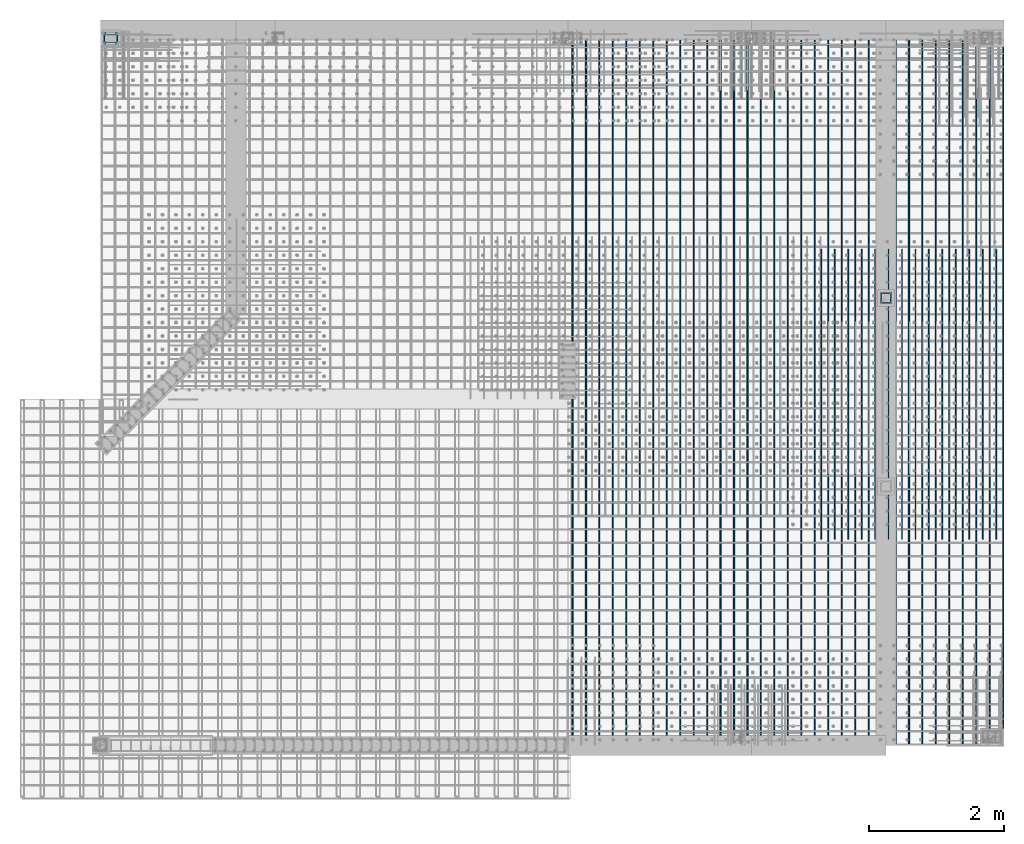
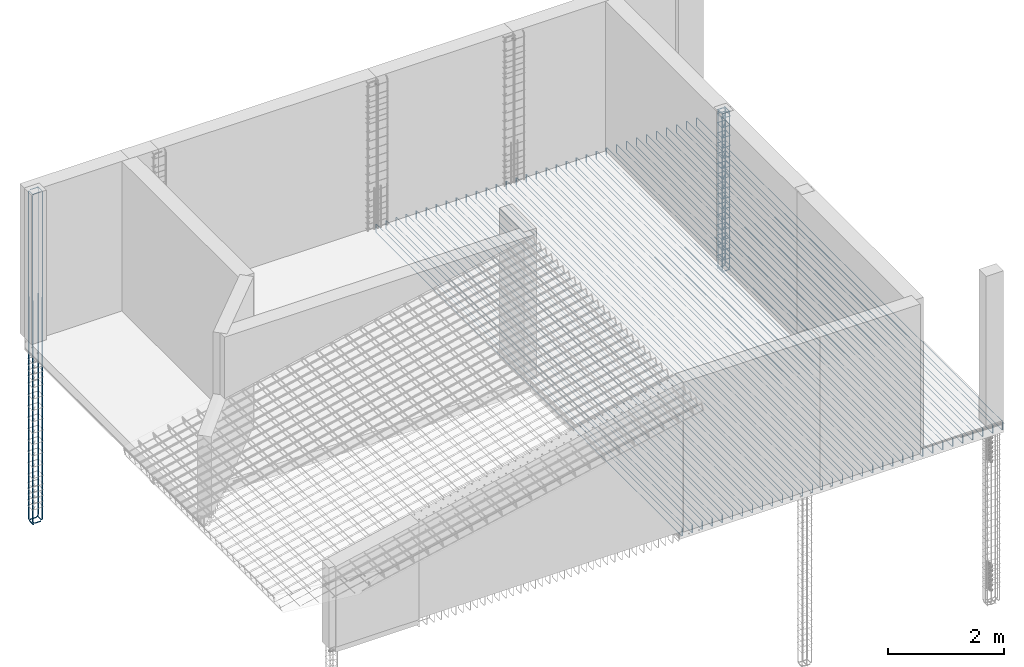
# One storey, part 11 of 17: 9 reinforcing bars.
"""IFC4 building model written with IfcOpenShell, lengths in metres."""

from ifc_helpers import new_model, entity, si_unit, frame, origin_with_axes, place, context, project, spatial, source, transform, mapped, element, save


model = new_model("IFC4")

# Units and contexts
model_context = context("Model", 3, precision=1e-05, world=origin_with_axes())
ifc_project = project(units=[si_unit("LENGTHUNIT", "METRE"), si_unit("AREAUNIT", "SQUARE_METRE"), si_unit("VOLUMEUNIT", "CUBIC_METRE"), si_unit("MASSUNIT", "GRAM", prefix="KILO"), si_unit("TIMEUNIT", "SECOND"), si_unit("PLANEANGLEUNIT", "RADIAN"), si_unit("SOLIDANGLEUNIT", "STERADIAN"), si_unit("THERMODYNAMICTEMPERATUREUNIT", "DEGREE_CELSIUS")], contexts=[model_context])

# Site, building, storey
placement_1 = place(None, origin_with_axes())
site = spatial("IfcSite", under=ifc_project, at=placement_1, Name="Italia", CompositionType="ELEMENT")
building = spatial("IfcBuilding", under=site, at=placement_1, Name="Abitazione", CompositionType="ELEMENT")
storey_placement = place(None, frame((0.0, 0.0, 3.569999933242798), z_axis=(0.0, 0.0, 1.0), x_axis=(1.0, 0.0, 0.0)))
storey = spatial("IfcBuildingStorey", under=building, at=storey_placement, Name="Storey 1", CompositionType="ELEMENT", Elevation=3.569999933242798)

# Reinforcing bars
shared_shape_1 = source(origin_with_axes(), model_context, "Body", "AdvancedSweptSolid", [
    entity("IfcSweptDiskSolid", entity("IfcIndexedPolyCurve", entity("IfcCartesianPointList3D", [[12.951, 7.369, 3.355], [12.839, 7.369, 3.355], [12.8199, 7.369, 3.35881], [12.8036, 7.369, 3.36964], [12.7928, 7.369, 3.38587], [12.789, 7.369, 3.405], [12.789, 7.369, 4.3875]]), [entity("IfcLineIndex", [1, 2]), entity("IfcLineIndex", [2, 3]), entity("IfcLineIndex", [3, 4]), entity("IfcLineIndex", [4, 5]), entity("IfcLineIndex", [5, 6]), entity("IfcLineIndex", [6, 7])], False), 0.01),
])
placement_2 = place(placement_1, origin_with_axes())
reinforcing_bar_1_placement = place(placement_2, origin_with_axes())
element("IfcReinforcingBar", 1, at=reinforcing_bar_1_placement, inside=storey, BarLength=1.17254, CrossSectionArea=0.00031416, NominalDiameter=0.02, context=model_context, shape_type="MappedRepresentation", body=[
    mapped(shared_shape_1, transform((5.42, 20.3, 0.0), x_axis=(0.0, -1.0, 0.0), y_axis=(1.0, 0.0, 0.0), z_axis=(0.0, 0.0, 1.0), scale=1.0)),
    mapped(shared_shape_1, transform((0.0, 0.0, 0.0), x_axis=(1.0, 0.0, 0.0), y_axis=(0.0, 1.0, 0.0), z_axis=(0.0, 0.0, 1.0), scale=1.0)),
    mapped(shared_shape_1, transform((20.3, -5.42, 0.0), x_axis=(0.0, 1.0, 0.0), y_axis=(-1.0, 0.0, 0.0), z_axis=(0.0, 0.0, 1.0), scale=1.0)),
    mapped(shared_shape_1, transform((25.72, 14.88, 0.0), x_axis=(-1.0, 0.0, 0.0), y_axis=(0.0, -1.0, 0.0), z_axis=(0.0, 0.0, 1.0), scale=1.0)),
])
shared_shape_2 = source(origin_with_axes(), model_context, "Body", "AdvancedSweptSolid", [
    entity("IfcSweptDiskSolid", entity("IfcIndexedPolyCurve", entity("IfcCartesianPointList3D", [[12.789, 7.369, 3.57], [12.789, 7.369, 6.645], [12.7928, 7.369, 6.66413], [12.8036, 7.369, 6.68036], [12.8199, 7.369, 6.69119], [12.839, 7.369, 6.695], [12.951, 7.369, 6.695]]), [entity("IfcLineIndex", [1, 2]), entity("IfcLineIndex", [2, 3]), entity("IfcLineIndex", [3, 4]), entity("IfcLineIndex", [4, 5]), entity("IfcLineIndex", [5, 6]), entity("IfcLineIndex", [6, 7])], False), 0.01),
])
reinforcing_bar_2_placement = place(placement_2, origin_with_axes())
element("IfcReinforcingBar", 2, at=reinforcing_bar_2_placement, inside=storey, BarLength=3.26504, CrossSectionArea=0.00031416, NominalDiameter=0.02, context=model_context, shape_type="MappedRepresentation", body=[
    mapped(shared_shape_2, transform((5.42, 20.3, 0.0), x_axis=(0.0, -1.0, 0.0), y_axis=(1.0, 0.0, 0.0), z_axis=(0.0, 0.0, 1.0), scale=1.0)),
    mapped(shared_shape_2, transform((0.0, 0.0, 0.0), x_axis=(1.0, 0.0, 0.0), y_axis=(0.0, 1.0, 0.0), z_axis=(0.0, 0.0, 1.0), scale=1.0)),
    mapped(shared_shape_2, transform((20.3, -5.42, 0.0), x_axis=(0.0, 1.0, 0.0), y_axis=(-1.0, 0.0, 0.0), z_axis=(0.0, 0.0, 1.0), scale=1.0)),
    mapped(shared_shape_2, transform((25.72, 14.88, 0.0), x_axis=(-1.0, 0.0, 0.0), y_axis=(0.0, -1.0, 0.0), z_axis=(0.0, 0.0, 1.0), scale=1.0)),
])
shared_shape_3 = source(origin_with_axes(), model_context, "Body", "AdvancedSweptSolid", [
    entity("IfcSweptDiskSolid", entity("IfcIndexedPolyCurve", entity("IfcCartesianPointList3D", [[12.8667, 7.42571, 3.613], [12.7989, 7.35793, 3.61189], [12.7919, 7.355, 3.6118], [12.785, 7.355, 3.61172], [12.7812, 7.35576, 3.61168], [12.7779, 7.35793, 3.61163], [12.7758, 7.36117, 3.61159], [12.775, 7.365, 3.61154], [12.775, 7.515, 3.60981], [12.7758, 7.51883, 3.60976], [12.7779, 7.52207, 3.60972], [12.7812, 7.52424, 3.60967], [12.785, 7.525, 3.60963], [12.935, 7.525, 3.60789], [12.9388, 7.52424, 3.60785], [12.9421, 7.52207, 3.6078], [12.9442, 7.51883, 3.60776], [12.945, 7.515, 3.60771], [12.945, 7.365, 3.60598], [12.9442, 7.36117, 3.60593], [12.9421, 7.35793, 3.60589], [12.9388, 7.35576, 3.60584], [12.935, 7.355, 3.6058], [12.785, 7.355, 3.60406], [12.7812, 7.35576, 3.60402], [12.7779, 7.35793, 3.60397], [12.7758, 7.36117, 3.60393], [12.775, 7.365, 3.60388], [12.775, 7.37186, 3.6038], [12.7779, 7.37893, 3.60371], [12.8457, 7.44671, 3.60261]]), [entity("IfcLineIndex", [1, 2]), entity("IfcLineIndex", [2, 3]), entity("IfcLineIndex", [3, 4]), entity("IfcLineIndex", [4, 5]), entity("IfcLineIndex", [5, 6]), entity("IfcLineIndex", [6, 7]), entity("IfcLineIndex", [7, 8]), entity("IfcLineIndex", [8, 9]), entity("IfcLineIndex", [9, 10]), entity("IfcLineIndex", [10, 11]), entity("IfcLineIndex", [11, 12]), entity("IfcLineIndex", [12, 13]), entity("IfcLineIndex", [13, 14]), entity("IfcLineIndex", [14, 15]), entity("IfcLineIndex", [15, 16]), entity("IfcLineIndex", [16, 17]), entity("IfcLineIndex", [17, 18]), entity("IfcLineIndex", [18, 19]), entity("IfcLineIndex", [19, 20]), entity("IfcLineIndex", [20, 21]), entity("IfcLineIndex", [21, 22]), entity("IfcLineIndex", [22, 23]), entity("IfcLineIndex", [23, 24]), entity("IfcLineIndex", [24, 25]), entity("IfcLineIndex", [25, 26]), entity("IfcLineIndex", [26, 27]), entity("IfcLineIndex", [27, 28]), entity("IfcLineIndex", [28, 29]), entity("IfcLineIndex", [29, 30]), entity("IfcLineIndex", [30, 31])], False), 0.004),
])
reinforcing_bar_3_placement = place(placement_2, origin_with_axes())
element("IfcReinforcingBar", 3, at=reinforcing_bar_3_placement, inside=storey, BarLength=0.898838, CrossSectionArea=5.0265e-05, NominalDiameter=0.008, context=model_context, shape_type="MappedRepresentation", body=[
    mapped(shared_shape_3, transform((7.62939e-05, -7.29561e-05, 1.93834), x_axis=(1.0, 0.0, 2.16572e-05), y_axis=(0.0, 1.0, -2.16947e-05), z_axis=(-2.16572e-05, 2.16947e-05, 1.0), scale=1.0)),
    mapped(shared_shape_3, transform((7.62939e-05, -7.29561e-05, 1.72296), x_axis=(1.0, 0.0, 2.16572e-05), y_axis=(0.0, 1.0, -2.16947e-05), z_axis=(-2.16572e-05, 2.16947e-05, 1.0), scale=1.0)),
    mapped(shared_shape_3, transform((7.62939e-05, -7.29561e-05, 2.99588), x_axis=(1.0, 0.0, 2.16572e-05), y_axis=(0.0, 1.0, -2.16947e-05), z_axis=(-2.16572e-05, 2.16947e-05, 1.0), scale=1.0)),
    mapped(shared_shape_3, transform((7.62939e-05, -7.29561e-05, 2.5845), x_axis=(1.0, 0.0, 2.16572e-05), y_axis=(0.0, 1.0, -2.16947e-05), z_axis=(-2.16572e-05, 2.16947e-05, 1.0), scale=1.0)),
    mapped(shared_shape_3, transform((7.62939e-05, -7.29561e-05, 2.36911), x_axis=(1.0, 0.0, 2.16572e-05), y_axis=(0.0, 1.0, -2.16947e-05), z_axis=(-2.16572e-05, 2.16947e-05, 1.0), scale=1.0)),
    mapped(shared_shape_3, transform((7.62939e-05, -7.29561e-05, 2.15373), x_axis=(1.0, 0.0, 2.16572e-05), y_axis=(0.0, 1.0, -2.16947e-05), z_axis=(-2.16572e-05, 2.16947e-05, 1.0), scale=1.0)),
    mapped(shared_shape_3, transform((0.0, 0.0, 0.215384), x_axis=(1.0, 0.0, 0.0), y_axis=(0.0, 1.0, 0.0), z_axis=(0.0, 0.0, 1.0), scale=1.0)),
    mapped(shared_shape_3, transform((7.62939e-05, -7.29561e-05, 1.50757), x_axis=(1.0, 0.0, 2.16572e-05), y_axis=(0.0, 1.0, -2.16947e-05), z_axis=(-2.16572e-05, 2.16947e-05, 1.0), scale=1.0)),
    mapped(shared_shape_3, transform((7.62939e-05, -7.29561e-05, 2.79988), x_axis=(1.0, 0.0, 2.16572e-05), y_axis=(0.0, 1.0, -2.16947e-05), z_axis=(-2.16572e-05, 2.16947e-05, 1.0), scale=1.0)),
    mapped(shared_shape_3, transform((7.62939e-05, -7.29561e-05, 0.86142), x_axis=(1.0, 0.0, 2.16572e-05), y_axis=(0.0, 1.0, -2.16947e-05), z_axis=(-2.16572e-05, 2.16947e-05, 1.0), scale=1.0)),
    mapped(shared_shape_3, transform((7.62939e-05, -7.29561e-05, 0.646036), x_axis=(1.0, 0.0, 2.16572e-05), y_axis=(0.0, 1.0, -2.16947e-05), z_axis=(-2.16572e-05, 2.16947e-05, 1.0), scale=1.0)),
    mapped(shared_shape_3, transform((7.62939e-05, -7.29561e-05, 0.430651), x_axis=(1.0, 0.0, 2.16572e-05), y_axis=(0.0, 1.0, -2.16947e-05), z_axis=(-2.16572e-05, 2.16947e-05, 1.0), scale=1.0)),
    mapped(shared_shape_3, transform((0.0, 0.0, 0.0), x_axis=(1.0, 0.0, 0.0), y_axis=(0.0, 1.0, 0.0), z_axis=(0.0, 0.0, 1.0), scale=1.0)),
    mapped(shared_shape_3, transform((7.62939e-05, -7.29561e-05, 1.29219), x_axis=(1.0, 0.0, 2.16572e-05), y_axis=(0.0, 1.0, -2.16947e-05), z_axis=(-2.16572e-05, 2.16947e-05, 1.0), scale=1.0)),
    mapped(shared_shape_3, transform((7.62939e-05, -7.29561e-05, 1.07681), x_axis=(1.0, 0.0, 2.16572e-05), y_axis=(0.0, 1.0, -2.16947e-05), z_axis=(-2.16572e-05, 2.16947e-05, 1.0), scale=1.0)),
])
shared_shape_4 = source(origin_with_axes(), model_context, "Body", "AdvancedSweptSolid", [
    entity("IfcSweptDiskSolid", entity("IfcIndexedPolyCurve", entity("IfcCartesianPointList3D", [[1.407, 11.225, -0.265], [1.3, 11.225, -0.265], [1.27895, 11.225, -0.260813], [1.26111, 11.225, -0.248891], [1.24919, 11.225, -0.231048], [1.245, 11.225, -0.21], [1.245, 11.225, 0.8975]]), [entity("IfcLineIndex", [1, 2]), entity("IfcLineIndex", [2, 3]), entity("IfcLineIndex", [3, 4]), entity("IfcLineIndex", [4, 5]), entity("IfcLineIndex", [5, 6]), entity("IfcLineIndex", [6, 7])], False), 0.011),
])
reinforcing_bar_4_placement = place(placement_2, origin_with_axes())
element("IfcReinforcingBar", 4, at=reinforcing_bar_4_placement, inside=storey, BarLength=1.30034, CrossSectionArea=0.00038013, NominalDiameter=0.022, context=model_context, shape_type="MappedRepresentation", body=[
    mapped(shared_shape_4, transform((-9.98, 12.61, 0.0), x_axis=(0.0, -1.0, 0.0), y_axis=(1.0, 0.0, 0.0), z_axis=(0.0, 0.0, 1.0), scale=1.0)),
    mapped(shared_shape_4, transform((0.0, 0.0, 0.0), x_axis=(1.0, 0.0, 0.0), y_axis=(0.0, 1.0, 0.0), z_axis=(0.0, 0.0, 1.0), scale=1.0)),
    mapped(shared_shape_4, transform((12.66, 9.98, 0.0), x_axis=(0.0, 1.0, 0.0), y_axis=(-1.0, 0.0, 0.0), z_axis=(0.0, 0.0, 1.0), scale=1.0)),
    mapped(shared_shape_4, transform((2.68, 22.59, 0.0), x_axis=(-1.0, 0.0, 0.0), y_axis=(0.0, -1.0, 0.0), z_axis=(0.0, 0.0, 1.0), scale=1.0)),
])
shared_shape_5 = source(origin_with_axes(), model_context, "Body", "AdvancedSweptSolid", [
    entity("IfcSweptDiskSolid", entity("IfcIndexedPolyCurve", entity("IfcCartesianPointList3D", [[1.245, 11.225, 0.0], [1.245, 11.225, 4.45]]), [entity("IfcLineIndex", [1, 2])], False), 0.011),
])
reinforcing_bar_5_placement = place(placement_2, origin_with_axes())
element("IfcReinforcingBar", 5, at=reinforcing_bar_5_placement, inside=storey, BarLength=4.45, CrossSectionArea=0.00038013, NominalDiameter=0.022, context=model_context, shape_type="MappedRepresentation", body=[
    mapped(shared_shape_5, transform((0.0, 0.139999, 0.0), x_axis=(1.0, 0.0, 0.0), y_axis=(0.0, 1.0, 0.0), z_axis=(0.0, 0.0, 1.0), scale=1.0)),
    mapped(shared_shape_5, transform((0.0, 0.0, 0.0), x_axis=(1.0, 0.0, 0.0), y_axis=(0.0, 1.0, 0.0), z_axis=(0.0, 0.0, 1.0), scale=1.0)),
    mapped(shared_shape_5, transform((0.19, 0.0, 0.0), x_axis=(1.0, 0.0, 0.0), y_axis=(0.0, 1.0, 0.0), z_axis=(0.0, 0.0, 1.0), scale=1.0)),
    mapped(shared_shape_5, transform((0.19, 0.139999, 0.0), x_axis=(1.0, 0.0, 0.0), y_axis=(0.0, 1.0, 0.0), z_axis=(0.0, 0.0, 1.0), scale=1.0)),
])
shared_shape_6 = source(origin_with_axes(), model_context, "Body", "AdvancedSweptSolid", [
    entity("IfcSweptDiskSolid", entity("IfcIndexedPolyCurve", entity("IfcCartesianPointList3D", [[1.242, 11.222, 3.57], [1.242, 11.222, 6.655], [1.24504, 11.222, 6.67031], [1.25372, 11.222, 6.68328], [1.26669, 11.222, 6.69196], [1.282, 11.222, 6.695], [1.404, 11.222, 6.695]]), [entity("IfcLineIndex", [1, 2]), entity("IfcLineIndex", [2, 3]), entity("IfcLineIndex", [3, 4]), entity("IfcLineIndex", [4, 5]), entity("IfcLineIndex", [5, 6]), entity("IfcLineIndex", [6, 7])], False), 0.008),
])
reinforcing_bar_6_placement = place(placement_2, origin_with_axes())
element("IfcReinforcingBar", 6, at=reinforcing_bar_6_placement, inside=storey, BarLength=3.26943, CrossSectionArea=0.00020106, NominalDiameter=0.016, context=model_context, shape_type="MappedRepresentation", body=[
    mapped(shared_shape_6, transform((-9.98, 12.61, 0.0), x_axis=(0.0, -1.0, 0.0), y_axis=(1.0, 0.0, 0.0), z_axis=(0.0, 0.0, 1.0), scale=1.0)),
    mapped(shared_shape_6, transform((0.0, 0.0, 0.0), x_axis=(1.0, 0.0, 0.0), y_axis=(0.0, 1.0, 0.0), z_axis=(0.0, 0.0, 1.0), scale=1.0)),
    mapped(shared_shape_6, transform((12.66, 9.98, 0.0), x_axis=(0.0, 1.0, 0.0), y_axis=(-1.0, 0.0, 0.0), z_axis=(0.0, 0.0, 1.0), scale=1.0)),
    mapped(shared_shape_6, transform((2.68, 22.59, 0.0), x_axis=(-1.0, 0.0, 0.0), y_axis=(0.0, -1.0, 0.0), z_axis=(0.0, 0.0, 1.0), scale=1.0)),
])
shared_shape_7 = source(origin_with_axes(), model_context, "Body", "AdvancedSweptSolid", [
    entity("IfcSweptDiskSolid", entity("IfcIndexedPolyCurve", entity("IfcCartesianPointList3D", [[8.206, 0.802, 3.362], [8.206, 0.802, 3.518], [8.206, 0.802761, 3.52183], [8.206, 0.804929, 3.52507], [8.206, 0.808173, 3.52724], [8.206, 0.812, 3.528], [8.206, 11.386, 3.528], [8.206, 11.3898, 3.52724], [8.206, 11.3931, 3.52507], [8.206, 11.3952, 3.52183], [8.206, 11.396, 3.518], [8.206, 11.396, 3.362]]), [entity("IfcLineIndex", [1, 2]), entity("IfcLineIndex", [2, 3]), entity("IfcLineIndex", [3, 4]), entity("IfcLineIndex", [4, 5]), entity("IfcLineIndex", [5, 6]), entity("IfcLineIndex", [6, 7]), entity("IfcLineIndex", [7, 8]), entity("IfcLineIndex", [8, 9]), entity("IfcLineIndex", [9, 10]), entity("IfcLineIndex", [10, 11]), entity("IfcLineIndex", [11, 12])], False), 0.006),
])
reinforcing_bar_7_placement = place(placement_2, origin_with_axes())
element("IfcReinforcingBar", 7, at=reinforcing_bar_7_placement, inside=storey, BarLength=10.9172, CrossSectionArea=0.0001131, NominalDiameter=0.012, context=model_context, shape_type="MappedRepresentation", body=[
    mapped(shared_shape_7, transform((6.39999, 0.0, 0.0), x_axis=(1.0, 0.0, 0.0), y_axis=(0.0, 1.0, 0.0), z_axis=(0.0, 0.0, 1.0), scale=1.0)),
    mapped(shared_shape_7, transform((6.19999, 0.0, 0.0), x_axis=(1.0, 0.0, 0.0), y_axis=(0.0, 1.0, 0.0), z_axis=(0.0, 0.0, 1.0), scale=1.0)),
    mapped(shared_shape_7, transform((4.4, 0.0, 0.0), x_axis=(1.0, 0.0, 0.0), y_axis=(0.0, 1.0, 0.0), z_axis=(0.0, 0.0, 1.0), scale=1.0)),
    mapped(shared_shape_7, transform((4.2, 0.0, 0.0), x_axis=(1.0, 0.0, 0.0), y_axis=(0.0, 1.0, 0.0), z_axis=(0.0, 0.0, 1.0), scale=1.0)),
    mapped(shared_shape_7, transform((4.0, 0.0, 0.0), x_axis=(1.0, 0.0, 0.0), y_axis=(0.0, 1.0, 0.0), z_axis=(0.0, 0.0, 1.0), scale=1.0)),
    mapped(shared_shape_7, transform((3.8, 0.0, 0.0), x_axis=(1.0, 0.0, 0.0), y_axis=(0.0, 1.0, 0.0), z_axis=(0.0, 0.0, 1.0), scale=1.0)),
    mapped(shared_shape_7, transform((3.6, 0.0, 0.0), x_axis=(1.0, 0.0, 0.0), y_axis=(0.0, 1.0, 0.0), z_axis=(0.0, 0.0, 1.0), scale=1.0)),
    mapped(shared_shape_7, transform((3.4, 0.0, 0.0), x_axis=(1.0, 0.0, 0.0), y_axis=(0.0, 1.0, 0.0), z_axis=(0.0, 0.0, 1.0), scale=1.0)),
    mapped(shared_shape_7, transform((4.8, 0.0, 0.0), x_axis=(1.0, 0.0, 0.0), y_axis=(0.0, 1.0, 0.0), z_axis=(0.0, 0.0, 1.0), scale=1.0)),
    mapped(shared_shape_7, transform((4.6, 0.0, 0.0), x_axis=(1.0, 0.0, 0.0), y_axis=(0.0, 1.0, 0.0), z_axis=(0.0, 0.0, 1.0), scale=1.0)),
    mapped(shared_shape_7, transform((5.99999, 0.0, 0.0), x_axis=(1.0, 0.0, 0.0), y_axis=(0.0, 1.0, 0.0), z_axis=(0.0, 0.0, 1.0), scale=1.0)),
    mapped(shared_shape_7, transform((5.79999, 0.0, 0.0), x_axis=(1.0, 0.0, 0.0), y_axis=(0.0, 1.0, 0.0), z_axis=(0.0, 0.0, 1.0), scale=1.0)),
    mapped(shared_shape_7, transform((5.59999, 0.0, 0.0), x_axis=(1.0, 0.0, 0.0), y_axis=(0.0, 1.0, 0.0), z_axis=(0.0, 0.0, 1.0), scale=1.0)),
    mapped(shared_shape_7, transform((5.39999, 0.0, 0.0), x_axis=(1.0, 0.0, 0.0), y_axis=(0.0, 1.0, 0.0), z_axis=(0.0, 0.0, 1.0), scale=1.0)),
    mapped(shared_shape_7, transform((5.2, 0.0, 0.0), x_axis=(1.0, 0.0, 0.0), y_axis=(0.0, 1.0, 0.0), z_axis=(0.0, 0.0, 1.0), scale=1.0)),
    mapped(shared_shape_7, transform((5.0, 0.0, 0.0), x_axis=(1.0, 0.0, 0.0), y_axis=(0.0, 1.0, 0.0), z_axis=(0.0, 0.0, 1.0), scale=1.0)),
    mapped(shared_shape_7, transform((3.2, 0.0, 0.0), x_axis=(1.0, 0.0, 0.0), y_axis=(0.0, 1.0, 0.0), z_axis=(0.0, 0.0, 1.0), scale=1.0)),
    mapped(shared_shape_7, transform((3.0, 0.0, 0.0), x_axis=(1.0, 0.0, 0.0), y_axis=(0.0, 1.0, 0.0), z_axis=(0.0, 0.0, 1.0), scale=1.0)),
    mapped(shared_shape_7, transform((1.2, 0.0, 0.0), x_axis=(1.0, 0.0, 0.0), y_axis=(0.0, 1.0, 0.0), z_axis=(0.0, 0.0, 1.0), scale=1.0)),
    mapped(shared_shape_7, transform((0.999999, 0.0, 0.0), x_axis=(1.0, 0.0, 0.0), y_axis=(0.0, 1.0, 0.0), z_axis=(0.0, 0.0, 1.0), scale=1.0)),
    mapped(shared_shape_7, transform((0.799999, 0.0, 0.0), x_axis=(1.0, 0.0, 0.0), y_axis=(0.0, 1.0, 0.0), z_axis=(0.0, 0.0, 1.0), scale=1.0)),
    mapped(shared_shape_7, transform((0.599999, 0.0, 0.0), x_axis=(1.0, 0.0, 0.0), y_axis=(0.0, 1.0, 0.0), z_axis=(0.0, 0.0, 1.0), scale=1.0)),
    mapped(shared_shape_7, transform((0.4, 0.0, 0.0), x_axis=(1.0, 0.0, 0.0), y_axis=(0.0, 1.0, 0.0), z_axis=(0.0, 0.0, 1.0), scale=1.0)),
    mapped(shared_shape_7, transform((0.2, 0.0, 0.0), x_axis=(1.0, 0.0, 0.0), y_axis=(0.0, 1.0, 0.0), z_axis=(0.0, 0.0, 1.0), scale=1.0)),
    mapped(shared_shape_7, transform((1.6, 0.0, 0.0), x_axis=(1.0, 0.0, 0.0), y_axis=(0.0, 1.0, 0.0), z_axis=(0.0, 0.0, 1.0), scale=1.0)),
    mapped(shared_shape_7, transform((1.4, 0.0, 0.0), x_axis=(1.0, 0.0, 0.0), y_axis=(0.0, 1.0, 0.0), z_axis=(0.0, 0.0, 1.0), scale=1.0)),
    mapped(shared_shape_7, transform((2.8, 0.0, 0.0), x_axis=(1.0, 0.0, 0.0), y_axis=(0.0, 1.0, 0.0), z_axis=(0.0, 0.0, 1.0), scale=1.0)),
    mapped(shared_shape_7, transform((2.6, 0.0, 0.0), x_axis=(1.0, 0.0, 0.0), y_axis=(0.0, 1.0, 0.0), z_axis=(0.0, 0.0, 1.0), scale=1.0)),
    mapped(shared_shape_7, transform((2.4, 0.0, 0.0), x_axis=(1.0, 0.0, 0.0), y_axis=(0.0, 1.0, 0.0), z_axis=(0.0, 0.0, 1.0), scale=1.0)),
    mapped(shared_shape_7, transform((2.2, 0.0, 0.0), x_axis=(1.0, 0.0, 0.0), y_axis=(0.0, 1.0, 0.0), z_axis=(0.0, 0.0, 1.0), scale=1.0)),
    mapped(shared_shape_7, transform((2.0, 0.0, 0.0), x_axis=(1.0, 0.0, 0.0), y_axis=(0.0, 1.0, 0.0), z_axis=(0.0, 0.0, 1.0), scale=1.0)),
    mapped(shared_shape_7, transform((1.8, 0.0, 0.0), x_axis=(1.0, 0.0, 0.0), y_axis=(0.0, 1.0, 0.0), z_axis=(0.0, 0.0, 1.0), scale=1.0)),
    mapped(shared_shape_7, transform((0.0, 0.0, 0.0), x_axis=(1.0, 0.0, 0.0), y_axis=(0.0, 1.0, 0.0), z_axis=(0.0, 0.0, 1.0), scale=1.0)),
    mapped(shared_shape_7, transform((22.8, 0.0, 6.89), x_axis=(-1.0, 0.0, 0.0), y_axis=(0.0, 1.0, 0.0), z_axis=(0.0, 0.0, -1.0), scale=1.0)),
    mapped(shared_shape_7, transform((21.0, 0.0, 6.89), x_axis=(-1.0, 0.0, 0.0), y_axis=(0.0, 1.0, 0.0), z_axis=(0.0, 0.0, -1.0), scale=1.0)),
    mapped(shared_shape_7, transform((20.8, 0.0, 6.89), x_axis=(-1.0, 0.0, 0.0), y_axis=(0.0, 1.0, 0.0), z_axis=(0.0, 0.0, -1.0), scale=1.0)),
    mapped(shared_shape_7, transform((20.6, 0.0, 6.89), x_axis=(-1.0, 0.0, 0.0), y_axis=(0.0, 1.0, 0.0), z_axis=(0.0, 0.0, -1.0), scale=1.0)),
    mapped(shared_shape_7, transform((20.4, 0.0, 6.89), x_axis=(-1.0, 0.0, 0.0), y_axis=(0.0, 1.0, 0.0), z_axis=(0.0, 0.0, -1.0), scale=1.0)),
    mapped(shared_shape_7, transform((20.2, 0.0, 6.89), x_axis=(-1.0, 0.0, 0.0), y_axis=(0.0, 1.0, 0.0), z_axis=(0.0, 0.0, -1.0), scale=1.0)),
    mapped(shared_shape_7, transform((20.0, 0.0, 6.89), x_axis=(-1.0, 0.0, 0.0), y_axis=(0.0, 1.0, 0.0), z_axis=(0.0, 0.0, -1.0), scale=1.0)),
    mapped(shared_shape_7, transform((21.4, 0.0, 6.89), x_axis=(-1.0, 0.0, 0.0), y_axis=(0.0, 1.0, 0.0), z_axis=(0.0, 0.0, -1.0), scale=1.0)),
    mapped(shared_shape_7, transform((21.2, 0.0, 6.89), x_axis=(-1.0, 0.0, 0.0), y_axis=(0.0, 1.0, 0.0), z_axis=(0.0, 0.0, -1.0), scale=1.0)),
    mapped(shared_shape_7, transform((22.6, 0.0, 6.89), x_axis=(-1.0, 0.0, 0.0), y_axis=(0.0, 1.0, 0.0), z_axis=(0.0, 0.0, -1.0), scale=1.0)),
    mapped(shared_shape_7, transform((22.4, 0.0, 6.89), x_axis=(-1.0, 0.0, 0.0), y_axis=(0.0, 1.0, 0.0), z_axis=(0.0, 0.0, -1.0), scale=1.0)),
    mapped(shared_shape_7, transform((22.2, 0.0, 6.89), x_axis=(-1.0, 0.0, 0.0), y_axis=(0.0, 1.0, 0.0), z_axis=(0.0, 0.0, -1.0), scale=1.0)),
    mapped(shared_shape_7, transform((22.0, 0.0, 6.89), x_axis=(-1.0, 0.0, 0.0), y_axis=(0.0, 1.0, 0.0), z_axis=(0.0, 0.0, -1.0), scale=1.0)),
    mapped(shared_shape_7, transform((21.8, 0.0, 6.89), x_axis=(-1.0, 0.0, 0.0), y_axis=(0.0, 1.0, 0.0), z_axis=(0.0, 0.0, -1.0), scale=1.0)),
    mapped(shared_shape_7, transform((21.6, 0.0, 6.89), x_axis=(-1.0, 0.0, 0.0), y_axis=(0.0, 1.0, 0.0), z_axis=(0.0, 0.0, -1.0), scale=1.0)),
    mapped(shared_shape_7, transform((19.8, 0.0, 6.89), x_axis=(-1.0, 0.0, 0.0), y_axis=(0.0, 1.0, 0.0), z_axis=(0.0, 0.0, -1.0), scale=1.0)),
    mapped(shared_shape_7, transform((19.6, 0.0, 6.89), x_axis=(-1.0, 0.0, 0.0), y_axis=(0.0, 1.0, 0.0), z_axis=(0.0, 0.0, -1.0), scale=1.0)),
    mapped(shared_shape_7, transform((17.8, 0.0, 6.89), x_axis=(-1.0, 0.0, 0.0), y_axis=(0.0, 1.0, 0.0), z_axis=(0.0, 0.0, -1.0), scale=1.0)),
    mapped(shared_shape_7, transform((17.6, 0.0, 6.89), x_axis=(-1.0, 0.0, 0.0), y_axis=(0.0, 1.0, 0.0), z_axis=(0.0, 0.0, -1.0), scale=1.0)),
    mapped(shared_shape_7, transform((17.4, 0.0, 6.89), x_axis=(-1.0, 0.0, 0.0), y_axis=(0.0, 1.0, 0.0), z_axis=(0.0, 0.0, -1.0), scale=1.0)),
    mapped(shared_shape_7, transform((17.2, 0.0, 6.89), x_axis=(-1.0, 0.0, 0.0), y_axis=(0.0, 1.0, 0.0), z_axis=(0.0, 0.0, -1.0), scale=1.0)),
    mapped(shared_shape_7, transform((17.0, 0.0, 6.89), x_axis=(-1.0, 0.0, 0.0), y_axis=(0.0, 1.0, 0.0), z_axis=(0.0, 0.0, -1.0), scale=1.0)),
    mapped(shared_shape_7, transform((16.8, 0.0, 6.89), x_axis=(-1.0, 0.0, 0.0), y_axis=(0.0, 1.0, 0.0), z_axis=(0.0, 0.0, -1.0), scale=1.0)),
    mapped(shared_shape_7, transform((18.2, 0.0, 6.89), x_axis=(-1.0, 0.0, 0.0), y_axis=(0.0, 1.0, 0.0), z_axis=(0.0, 0.0, -1.0), scale=1.0)),
    mapped(shared_shape_7, transform((18.0, 0.0, 6.89), x_axis=(-1.0, 0.0, 0.0), y_axis=(0.0, 1.0, 0.0), z_axis=(0.0, 0.0, -1.0), scale=1.0)),
    mapped(shared_shape_7, transform((19.4, 0.0, 6.89), x_axis=(-1.0, 0.0, 0.0), y_axis=(0.0, 1.0, 0.0), z_axis=(0.0, 0.0, -1.0), scale=1.0)),
    mapped(shared_shape_7, transform((19.2, 0.0, 6.89), x_axis=(-1.0, 0.0, 0.0), y_axis=(0.0, 1.0, 0.0), z_axis=(0.0, 0.0, -1.0), scale=1.0)),
    mapped(shared_shape_7, transform((19.0, 0.0, 6.89), x_axis=(-1.0, 0.0, 0.0), y_axis=(0.0, 1.0, 0.0), z_axis=(0.0, 0.0, -1.0), scale=1.0)),
    mapped(shared_shape_7, transform((18.8, 0.0, 6.89), x_axis=(-1.0, 0.0, 0.0), y_axis=(0.0, 1.0, 0.0), z_axis=(0.0, 0.0, -1.0), scale=1.0)),
    mapped(shared_shape_7, transform((18.6, 0.0, 6.89), x_axis=(-1.0, 0.0, 0.0), y_axis=(0.0, 1.0, 0.0), z_axis=(0.0, 0.0, -1.0), scale=1.0)),
    mapped(shared_shape_7, transform((18.4, 0.0, 6.89), x_axis=(-1.0, 0.0, 0.0), y_axis=(0.0, 1.0, 0.0), z_axis=(0.0, 0.0, -1.0), scale=1.0)),
    mapped(shared_shape_7, transform((16.6, 0.0, 6.89), x_axis=(-1.0, 0.0, 0.0), y_axis=(0.0, 1.0, 0.0), z_axis=(0.0, 0.0, -1.0), scale=1.0)),
    mapped(shared_shape_7, transform((16.4, 0.0, 6.89), x_axis=(-1.0, 0.0, 0.0), y_axis=(0.0, 1.0, 0.0), z_axis=(0.0, 0.0, -1.0), scale=1.0)),
])
shared_shape_8 = source(origin_with_axes(), model_context, "Body", "AdvancedSweptSolid", [
    entity("IfcSweptDiskSolid", entity("IfcIndexedPolyCurve", entity("IfcCartesianPointList3D", [[11.8963, 4.5774, 3.5], [11.8963, 7.44058, 3.5]]), [entity("IfcLineIndex", [1, 2])], False), 0.01),
])
reinforcing_bar_8_placement = place(placement_2, origin_with_axes())
element("IfcReinforcingBar", 8, at=reinforcing_bar_8_placement, inside=storey, BarLength=2.86318, CrossSectionArea=0.00031416, NominalDiameter=0.02, context=model_context, shape_type="MappedRepresentation", body=[
    mapped(shared_shape_8, transform((1.6, 0.0, 0.0), x_axis=(1.0, 0.0, 0.0), y_axis=(0.0, 1.0, 0.0), z_axis=(0.0, 0.0, 1.0), scale=1.0)),
    mapped(shared_shape_8, transform((1.4, 0.0, 0.0), x_axis=(1.0, 0.0, 0.0), y_axis=(0.0, 1.0, 0.0), z_axis=(0.0, 0.0, 1.0), scale=1.0)),
    mapped(shared_shape_8, transform((1.8, 0.0, 0.0), x_axis=(1.0, 0.0, 0.0), y_axis=(0.0, 1.0, 0.0), z_axis=(0.0, 0.0, 1.0), scale=1.0)),
    mapped(shared_shape_8, transform((2.2, 0.0, 0.0), x_axis=(1.0, 0.0, 0.0), y_axis=(0.0, 1.0, 0.0), z_axis=(0.0, 0.0, 1.0), scale=1.0)),
    mapped(shared_shape_8, transform((2.0, 0.0, 0.0), x_axis=(1.0, 0.0, 0.0), y_axis=(0.0, 1.0, 0.0), z_axis=(0.0, 0.0, 1.0), scale=1.0)),
    mapped(shared_shape_8, transform((2.4, 0.0, 0.0), x_axis=(1.0, 0.0, 0.0), y_axis=(0.0, 1.0, 0.0), z_axis=(0.0, 0.0, 1.0), scale=1.0)),
    mapped(shared_shape_8, transform((0.0, 0.0, 0.0), x_axis=(1.0, 0.0, 0.0), y_axis=(0.0, 1.0, 0.0), z_axis=(0.0, 0.0, 1.0), scale=1.0)),
    mapped(shared_shape_8, transform((2.6, 0.0, 0.0), x_axis=(1.0, 0.0, 0.0), y_axis=(0.0, 1.0, 0.0), z_axis=(0.0, 0.0, 1.0), scale=1.0)),
    mapped(shared_shape_8, transform((0.2, 0.0, 0.0), x_axis=(1.0, 0.0, 0.0), y_axis=(0.0, 1.0, 0.0), z_axis=(0.0, 0.0, 1.0), scale=1.0)),
    mapped(shared_shape_8, transform((0.599999, 0.0, 0.0), x_axis=(1.0, 0.0, 0.0), y_axis=(0.0, 1.0, 0.0), z_axis=(0.0, 0.0, 1.0), scale=1.0)),
    mapped(shared_shape_8, transform((0.4, 0.0, 0.0), x_axis=(1.0, 0.0, 0.0), y_axis=(0.0, 1.0, 0.0), z_axis=(0.0, 0.0, 1.0), scale=1.0)),
    mapped(shared_shape_8, transform((0.799999, 0.0, 0.0), x_axis=(1.0, 0.0, 0.0), y_axis=(0.0, 1.0, 0.0), z_axis=(0.0, 0.0, 1.0), scale=1.0)),
    mapped(shared_shape_8, transform((1.2, 0.0, 0.0), x_axis=(1.0, 0.0, 0.0), y_axis=(0.0, 1.0, 0.0), z_axis=(0.0, 0.0, 1.0), scale=1.0)),
    mapped(shared_shape_8, transform((0.999999, 0.0, 0.0), x_axis=(1.0, 0.0, 0.0), y_axis=(0.0, 1.0, 0.0), z_axis=(0.0, 0.0, 1.0), scale=1.0)),
])
shared_shape_9 = source(origin_with_axes(), model_context, "Body", "AdvancedSweptSolid", [
    entity("IfcSweptDiskSolid", entity("IfcIndexedPolyCurve", entity("IfcCartesianPointList3D", [[11.8963, 3.84899, 3.5], [11.8963, 4.5774, 3.5]]), [entity("IfcLineIndex", [1, 2])], False), 0.01),
])
reinforcing_bar_9_placement = place(placement_2, origin_with_axes())
element("IfcReinforcingBar", 9, at=reinforcing_bar_9_placement, inside=storey, BarLength=0.728409, CrossSectionArea=0.00031416, NominalDiameter=0.02, context=model_context, shape_type="MappedRepresentation", body=[
    mapped(shared_shape_9, transform((1.4, 0.0, 0.0), x_axis=(1.0, 0.0, 0.0), y_axis=(0.0, 1.0, 0.0), z_axis=(0.0, 0.0, 1.0), scale=1.0)),
    mapped(shared_shape_9, transform((1.8, 0.0, 0.0), x_axis=(1.0, 0.0, 0.0), y_axis=(0.0, 1.0, 0.0), z_axis=(0.0, 0.0, 1.0), scale=1.0)),
    mapped(shared_shape_9, transform((1.6, 0.0, 0.0), x_axis=(1.0, 0.0, 0.0), y_axis=(0.0, 1.0, 0.0), z_axis=(0.0, 0.0, 1.0), scale=1.0)),
    mapped(shared_shape_9, transform((2.0, 0.0, 0.0), x_axis=(1.0, 0.0, 0.0), y_axis=(0.0, 1.0, 0.0), z_axis=(0.0, 0.0, 1.0), scale=1.0)),
    mapped(shared_shape_9, transform((2.4, 0.0, 0.0), x_axis=(1.0, 0.0, 0.0), y_axis=(0.0, 1.0, 0.0), z_axis=(0.0, 0.0, 1.0), scale=1.0)),
    mapped(shared_shape_9, transform((2.2, 0.0, 0.0), x_axis=(1.0, 0.0, 0.0), y_axis=(0.0, 1.0, 0.0), z_axis=(0.0, 0.0, 1.0), scale=1.0)),
    mapped(shared_shape_9, transform((2.6, 0.0, 0.0), x_axis=(1.0, 0.0, 0.0), y_axis=(0.0, 1.0, 0.0), z_axis=(0.0, 0.0, 1.0), scale=1.0)),
    mapped(shared_shape_9, transform((0.2, 0.0, 0.0), x_axis=(1.0, 0.0, 0.0), y_axis=(0.0, 1.0, 0.0), z_axis=(0.0, 0.0, 1.0), scale=1.0)),
    mapped(shared_shape_9, transform((0.0, 0.0, 0.0), x_axis=(1.0, 0.0, 0.0), y_axis=(0.0, 1.0, 0.0), z_axis=(0.0, 0.0, 1.0), scale=1.0)),
    mapped(shared_shape_9, transform((0.4, 0.0, 0.0), x_axis=(1.0, 0.0, 0.0), y_axis=(0.0, 1.0, 0.0), z_axis=(0.0, 0.0, 1.0), scale=1.0)),
    mapped(shared_shape_9, transform((0.799999, 0.0, 0.0), x_axis=(1.0, 0.0, 0.0), y_axis=(0.0, 1.0, 0.0), z_axis=(0.0, 0.0, 1.0), scale=1.0)),
    mapped(shared_shape_9, transform((0.599999, 0.0, 0.0), x_axis=(1.0, 0.0, 0.0), y_axis=(0.0, 1.0, 0.0), z_axis=(0.0, 0.0, 1.0), scale=1.0)),
    mapped(shared_shape_9, transform((0.999999, 0.0, 0.0), x_axis=(1.0, 0.0, 0.0), y_axis=(0.0, 1.0, 0.0), z_axis=(0.0, 0.0, 1.0), scale=1.0)),
    mapped(shared_shape_9, transform((1.4, 3.59159, 0.0), x_axis=(1.0, 0.0, 0.0), y_axis=(0.0, 1.0, 0.0), z_axis=(0.0, 0.0, 1.0), scale=1.0)),
    mapped(shared_shape_9, transform((1.2, 0.0, 0.0), x_axis=(1.0, 0.0, 0.0), y_axis=(0.0, 1.0, 0.0), z_axis=(0.0, 0.0, 1.0), scale=1.0)),
    mapped(shared_shape_9, transform((1.6, 3.59159, 0.0), x_axis=(1.0, 0.0, 0.0), y_axis=(0.0, 1.0, 0.0), z_axis=(0.0, 0.0, 1.0), scale=1.0)),
    mapped(shared_shape_9, transform((2.0, 3.59159, 0.0), x_axis=(1.0, 0.0, 0.0), y_axis=(0.0, 1.0, 0.0), z_axis=(0.0, 0.0, 1.0), scale=1.0)),
    mapped(shared_shape_9, transform((1.8, 3.59159, 0.0), x_axis=(1.0, 0.0, 0.0), y_axis=(0.0, 1.0, 0.0), z_axis=(0.0, 0.0, 1.0), scale=1.0)),
    mapped(shared_shape_9, transform((2.2, 3.59159, 0.0), x_axis=(1.0, 0.0, 0.0), y_axis=(0.0, 1.0, 0.0), z_axis=(0.0, 0.0, 1.0), scale=1.0)),
    mapped(shared_shape_9, transform((2.6, 3.59159, 0.0), x_axis=(1.0, 0.0, 0.0), y_axis=(0.0, 1.0, 0.0), z_axis=(0.0, 0.0, 1.0), scale=1.0)),
    mapped(shared_shape_9, transform((2.4, 3.59159, 0.0), x_axis=(1.0, 0.0, 0.0), y_axis=(0.0, 1.0, 0.0), z_axis=(0.0, 0.0, 1.0), scale=1.0)),
    mapped(shared_shape_9, transform((0.0, 3.59159, 0.0), x_axis=(1.0, 0.0, 0.0), y_axis=(0.0, 1.0, 0.0), z_axis=(0.0, 0.0, 1.0), scale=1.0)),
    mapped(shared_shape_9, transform((0.4, 3.59159, 0.0), x_axis=(1.0, 0.0, 0.0), y_axis=(0.0, 1.0, 0.0), z_axis=(0.0, 0.0, 1.0), scale=1.0)),
    mapped(shared_shape_9, transform((0.2, 3.59159, 0.0), x_axis=(1.0, 0.0, 0.0), y_axis=(0.0, 1.0, 0.0), z_axis=(0.0, 0.0, 1.0), scale=1.0)),
    mapped(shared_shape_9, transform((0.599999, 3.59159, 0.0), x_axis=(1.0, 0.0, 0.0), y_axis=(0.0, 1.0, 0.0), z_axis=(0.0, 0.0, 1.0), scale=1.0)),
    mapped(shared_shape_9, transform((0.999999, 3.59159, 0.0), x_axis=(1.0, 0.0, 0.0), y_axis=(0.0, 1.0, 0.0), z_axis=(0.0, 0.0, 1.0), scale=1.0)),
    mapped(shared_shape_9, transform((0.799999, 3.59159, 0.0), x_axis=(1.0, 0.0, 0.0), y_axis=(0.0, 1.0, 0.0), z_axis=(0.0, 0.0, 1.0), scale=1.0)),
    mapped(shared_shape_9, transform((1.2, 3.59159, 0.0), x_axis=(1.0, 0.0, 0.0), y_axis=(0.0, 1.0, 0.0), z_axis=(0.0, 0.0, 1.0), scale=1.0)),
])

save(model, "model.ifc")
